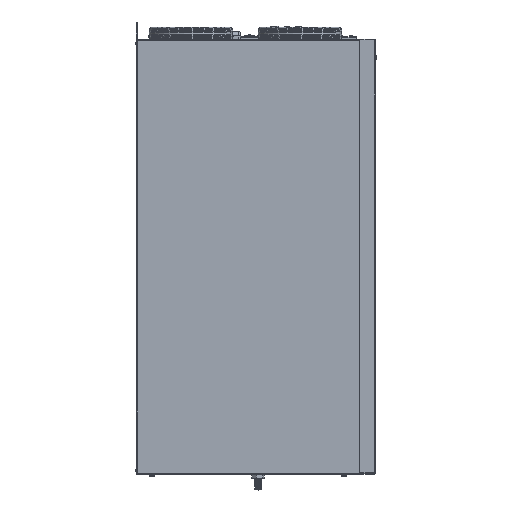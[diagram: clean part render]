
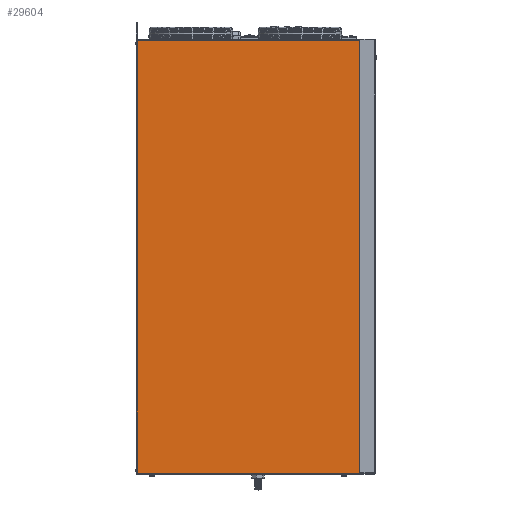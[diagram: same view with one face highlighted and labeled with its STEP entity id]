
A CAD part, top view. The second image highlights one B-rep face of the part: STEP entity #29604.
In plain terms, the highlighted planar face has unit normal (0, 0, 1).
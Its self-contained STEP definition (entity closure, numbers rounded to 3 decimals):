
#4682=FACE_OUTER_BOUND('',#6640,.T.);
#6640=EDGE_LOOP('',(#24068,#24069,#24070,#24071));
#7782=LINE('',#40524,#10059);
#7841=LINE('',#40726,#10118);
#7843=LINE('',#40729,#10120);
#7845=LINE('',#40732,#10122);
#10059=VECTOR('',#33204,10.);
#10118=VECTOR('',#33389,10.);
#10120=VECTOR('',#33393,10.);
#10122=VECTOR('',#33397,10.);
#13255=VERTEX_POINT('',#40521);
#13256=VERTEX_POINT('',#40523);
#13327=VERTEX_POINT('',#40685);
#13329=VERTEX_POINT('',#40690);
#15970=EDGE_CURVE('',#13255,#13256,#7782,.T.);
#16072=EDGE_CURVE('',#13256,#13329,#7841,.T.);
#16074=EDGE_CURVE('',#13329,#13327,#7843,.T.);
#16076=EDGE_CURVE('',#13327,#13255,#7845,.T.);
#24068=ORIENTED_EDGE('',*,*,#16072,.F.);
#24069=ORIENTED_EDGE('',*,*,#15970,.F.);
#24070=ORIENTED_EDGE('',*,*,#16076,.F.);
#24071=ORIENTED_EDGE('',*,*,#16074,.F.);
#28248=PLANE('',#31554);
#29604=ADVANCED_FACE('',(#4682),#28248,.T.);
#31554=AXIS2_PLACEMENT_3D('',#51896,#36389,#36390);
#33204=DIRECTION('',(0.,-1.,0.));
#33389=DIRECTION('',(-1.,0.,0.));
#33393=DIRECTION('',(0.,1.,0.));
#33397=DIRECTION('',(1.,0.,0.));
#36389=DIRECTION('center_axis',(0.,0.,
1.));
#36390=DIRECTION('ref_axis',(1.,0.,0.));
#40521=CARTESIAN_POINT('',(0.65,1036.7,296.7));
#40523=CARTESIAN_POINT('',(0.65,4.3,296.7));
#40524=CARTESIAN_POINT('',(0.65,3.185,296.7));
#40685=CARTESIAN_POINT('',(-530.15,1036.7,296.7));
#40690=CARTESIAN_POINT('',(-530.15,4.3,296.7));
#40726=CARTESIAN_POINT('',(-203.9,4.3,296.7));
#40729=CARTESIAN_POINT('',(-530.15,520.6,296.7));
#40732=CARTESIAN_POINT('',(-265.425,1036.7,296.7));
#51896=CARTESIAN_POINT('Origin',(-265.75,520.6,296.7));
